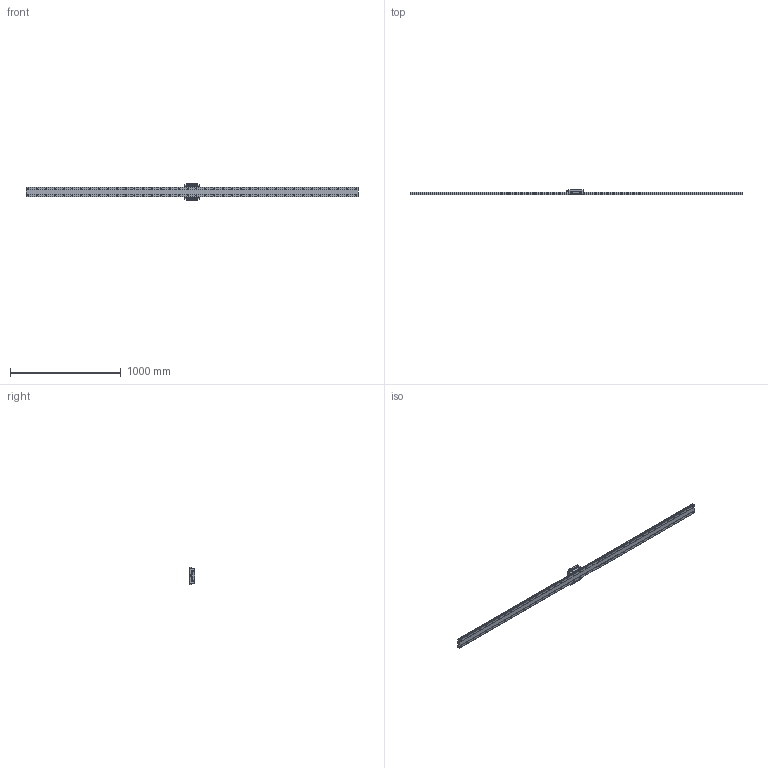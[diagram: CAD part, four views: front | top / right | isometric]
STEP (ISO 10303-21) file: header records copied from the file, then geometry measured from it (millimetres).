
FILE_DESCRIPTION(/* description */ ('STEP AP214'),/* implementation_level */ '2;1');
FILE_NAME(/* name */ 'HRW50CA1SS-3000L_G20_0_B-PT18_1429-75_0_0_0_1',/* time_stamp */ '2023-09-26T15:06:06+02:00',/* author */ ('License CC BY-ND 4.0'),/* organization */ ('CADENAS'),/* preprocessor_version */ 'ST-DEVELOPER v19.3',/* originating_system */ 'PARTsolutions',/* authorisation */ ' ');
FILE_SCHEMA (('AUTOMOTIVE_DESIGN {1 0 10303 214 3 1 1}'));
Length unit declared in the file: millimetre
Products named in the file (4): HRW50CA1SS-3000L_G20_0_B-PT18_1429-75_0_0_0_1; HRW-B-PT1/8_grease_nipple_joint; HRW50CASSB-PT1/81 Slide17-60; HRW50CA300020 Track
Assembly tree (3 placements, depth 2):
  HRW50CA1SS-3000L_G20_0_B-PT18_1429-75_0_0_0_1
    HRW-B-PT1/8_grease_nipple_joint
    HRW50CASSB-PT1/81 Slide17-60
    HRW50CA300020 Track
Bounding box: 3000 x 50 x 162 mm (x, y, z)
Volume: 6310791.4 mm3; surface area: 844277.7 mm2
Topology: 3 solids, 3 shells, 465 faces, 1092 edges, 719 vertices
Faces by surface type: plane 247, cylinder 183, cone 24, torus 9, sphere 2
Full cylindrical faces by diameter (mm): 8.376 x2, 8.6 x4, 9 x76, 9.6 x1, 14 x76, 14.5 x2
Entity records: 12870 total; most frequent: CARTESIAN_POINT 2228, DIRECTION 2204, ORIENTED_EDGE 1774, FACE_BOUND 913, EDGE_LOOP 911, EDGE_CURVE 887, AXIS2_PLACEMENT_3D 883, VERTEX_POINT 712
